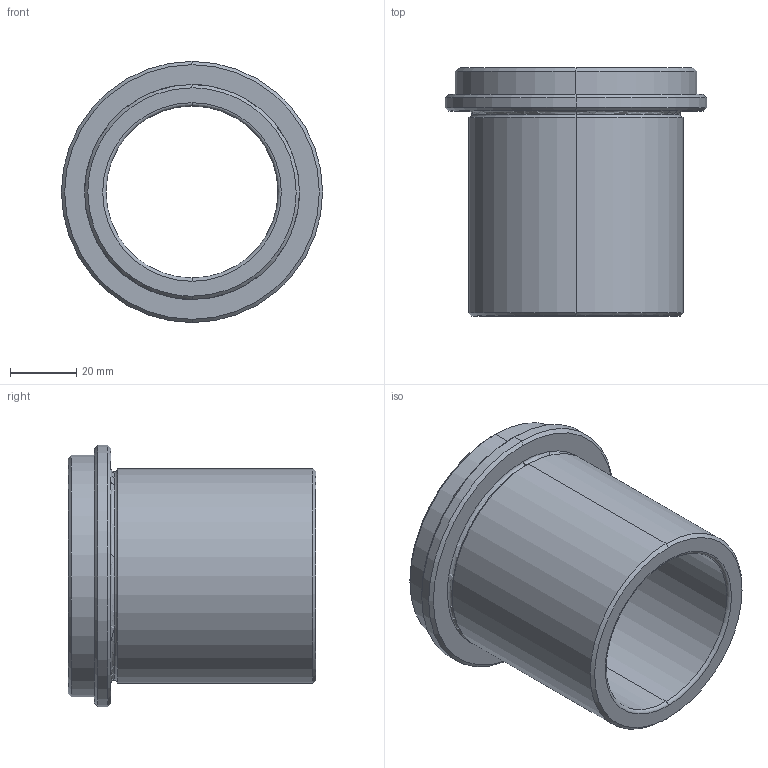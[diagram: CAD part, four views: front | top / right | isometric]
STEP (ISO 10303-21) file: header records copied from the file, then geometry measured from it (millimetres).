
FILE_DESCRIPTION(('CATIA V5 STEP Exchange'),'2;1');
FILE_NAME('C:\Users\Utente\Desktop\IO LAVORO\3D X SITO CF\X SITO\CF 439\CF 439 52x75.stp','2020-12-27T20:48:52+00:00',('none'),('none'),'CATIA Version 5 Release 20 GA (IN-10)','CATIA V5 STEP AP203','none');
FILE_SCHEMA(('CONFIG_CONTROL_DESIGN'));
Length unit declared in the file: millimetre
Products named in the file (1): CF 439 52x75
Bounding box: 79 x 75 x 79 mm (x, y, z)
Volume: 103599.6 mm3; surface area: 33075.6 mm2
Topology: 1 solids, 1 shells, 28 faces, 86 edges, 62 vertices
Faces by surface type: cylinder 8, cone 8, torus 8, plane 4
Entity records: 1104 total; most frequent: CARTESIAN_POINT 289, ORIENTED_EDGE 172, DIRECTION 134, AXIS2_PLACEMENT_3D 91, EDGE_CURVE 86, CIRCLE 62, VERTEX_POINT 62, EDGE_LOOP 32
